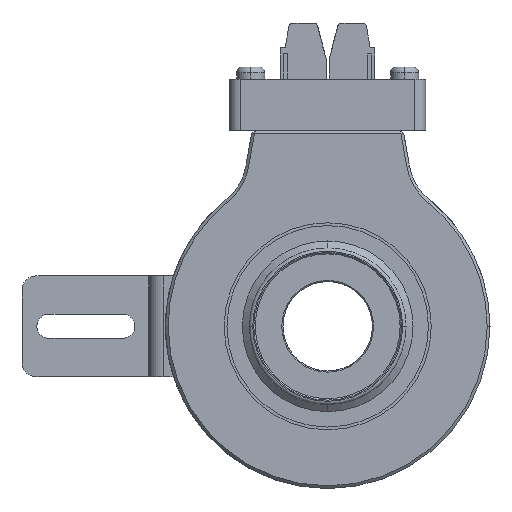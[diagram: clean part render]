
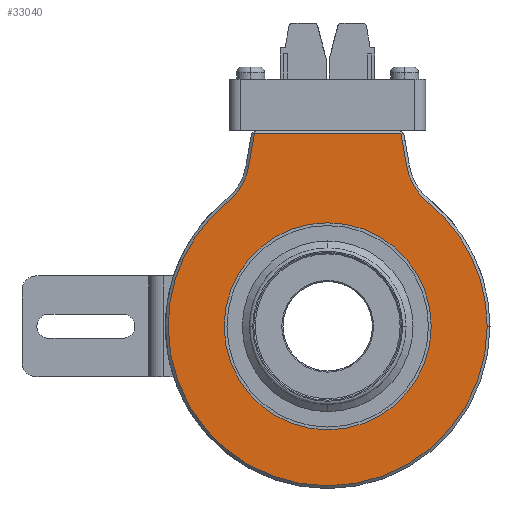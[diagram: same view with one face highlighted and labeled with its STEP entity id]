
A CAD part, left-side view. The second image highlights one B-rep face of the part: STEP entity #33040.
In plain terms, the highlighted planar face has unit normal (-1, 0, 0).
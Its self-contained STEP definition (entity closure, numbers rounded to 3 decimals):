
#963 = ORIENTED_EDGE ( 'NONE', *, *, #101474, .T. ) ;
#2913 = DIRECTION ( 'NONE',  ( 1., 0., 0. ) ) ;
#3693 = CARTESIAN_POINT ( 'NONE',  ( -27., 17.883, 22.191 ) ) ;
#4895 = DIRECTION ( 'NONE',  ( 1., 0., 0. ) ) ;
#5388 = VERTEX_POINT ( 'NONE', #10444 ) ;
#5405 = EDGE_CURVE ( 'NONE', #5388, #38282, #83520, .T. ) ;
#5670 = DIRECTION ( 'NONE',  ( 0., -1., 0. ) ) ;
#6127 = VERTEX_POINT ( 'NONE', #83671 ) ;
#7540 = EDGE_CURVE ( 'NONE', #13127, #28374, #52136, .T. ) ;
#7824 = DIRECTION ( 'NONE',  ( -1., 0., 0. ) ) ;
#10444 = CARTESIAN_POINT ( 'NONE',  ( -27., 13.08, 34.5 ) ) ;
#10959 = PLANE ( 'NONE',  #46688 ) ;
#11042 = VECTOR ( 'NONE', #99295, 1000. ) ;
#12610 = CARTESIAN_POINT ( 'NONE',  ( -27., -13.08, 34.5 ) ) ;
#13127 = VERTEX_POINT ( 'NONE', #43358 ) ;
#13534 = ORIENTED_EDGE ( 'NONE', *, *, #7540, .T. ) ;
#13763 = DIRECTION ( 'NONE',  ( 0., -1., 0. ) ) ;
#18870 = ORIENTED_EDGE ( 'NONE', *, *, #5405, .T. ) ;
#21832 = VECTOR ( 'NONE', #45349, 1000. ) ;
#23403 = CARTESIAN_POINT ( 'NONE',  ( -27., 0., 0. ) ) ;
#24986 = ORIENTED_EDGE ( 'NONE', *, *, #67703, .T. ) ;
#25370 = DIRECTION ( 'NONE',  ( 0., -1., 0. ) ) ;
#26589 = DIRECTION ( 'NONE',  ( 0., -1., 0. ) ) ;
#28374 = VERTEX_POINT ( 'NONE', #75214 ) ;
#31207 = EDGE_LOOP ( 'NONE', ( #53195, #100364 ) ) ;
#32189 = VECTOR ( 'NONE', #100170, 1000. ) ;
#32933 = CIRCLE ( 'NONE', #72398, 18.5 ) ;
#33040 = ADVANCED_FACE ( 'NONE', ( #44825, #77024 ), #10959, .T. ) ;
#34297 = AXIS2_PLACEMENT_3D ( 'NONE', #77557, #2913, #26589 ) ;
#34659 = CARTESIAN_POINT ( 'NONE',  ( -27., 19.46, -1.682 ) ) ;
#34988 = VERTEX_POINT ( 'NONE', #90794 ) ;
#35774 = DIRECTION ( 'NONE',  ( 0., 1., 0. ) ) ;
#37423 = EDGE_CURVE ( 'NONE', #6127, #89048, #69381, .T. ) ;
#38282 = VERTEX_POINT ( 'NONE', #75866 ) ;
#38672 = DIRECTION ( 'NONE',  ( -1., 0., 0. ) ) ;
#43358 = CARTESIAN_POINT ( 'NONE',  ( -27., 28.5, 0. ) ) ;
#44110 = ORIENTED_EDGE ( 'NONE', *, *, #97656, .T. ) ;
#44825 = FACE_OUTER_BOUND ( 'NONE', #51692, .T. ) ;
#45349 = DIRECTION ( 'NONE',  ( 0., 1., 0. ) ) ;
#46254 = CIRCLE ( 'NONE', #34297, 10.5 ) ;
#46688 = AXIS2_PLACEMENT_3D ( 'NONE', #67934, #61457, #59887 ) ;
#47865 = DIRECTION ( 'NONE',  ( 0., 1., 0. ) ) ;
#48942 = CARTESIAN_POINT ( 'NONE',  ( -27., -18.5, 0. ) ) ;
#49308 = AXIS2_PLACEMENT_3D ( 'NONE', #23403, #89463, #5670 ) ;
#50093 = DIRECTION ( 'NONE',  ( 1., 0., 0. ) ) ;
#51692 = EDGE_LOOP ( 'NONE', ( #79604, #44110, #18870, #69479, #24986, #13534, #62146, #963 ) ) ;
#52136 = CIRCLE ( 'NONE', #91551, 28.5 ) ;
#52945 = CARTESIAN_POINT ( 'NONE',  ( -27., 0., 0. ) ) ;
#53195 = ORIENTED_EDGE ( 'NONE', *, *, #37423, .T. ) ;
#53396 = LINE ( 'NONE', #86130, #21832 ) ;
#55850 = DIRECTION ( 'NONE',  ( 0., -1., 0. ) ) ;
#55933 = CARTESIAN_POINT ( 'NONE',  ( -27., 0., 0. ) ) ;
#59197 = AXIS2_PLACEMENT_3D ( 'NONE', #63732, #7824, #13763 ) ;
#59570 = CARTESIAN_POINT ( 'NONE',  ( -27., -17.711, 8.236 ) ) ;
#59618 = CIRCLE ( 'NONE', #49308, 28.5 ) ;
#59887 = DIRECTION ( 'NONE',  ( 0., -1., 0. ) ) ;
#61457 = DIRECTION ( 'NONE',  ( -1., 0., 0. ) ) ;
#62146 = ORIENTED_EDGE ( 'NONE', *, *, #98969, .T. ) ;
#62303 = CARTESIAN_POINT ( 'NONE',  ( -27., 0., 0. ) ) ;
#63732 = CARTESIAN_POINT ( 'NONE',  ( -27., 0., 0. ) ) ;
#67703 = EDGE_CURVE ( 'NONE', #97349, #13127, #103767, .T. ) ;
#67934 = CARTESIAN_POINT ( 'NONE',  ( -27., 29., 0. ) ) ;
#68526 = DIRECTION ( 'NONE',  ( 1., 0., 0. ) ) ;
#69381 = CIRCLE ( 'NONE', #88226, 18.5 ) ;
#69479 = ORIENTED_EDGE ( 'NONE', *, *, #104468, .T. ) ;
#72398 = AXIS2_PLACEMENT_3D ( 'NONE', #52945, #68526, #35774 ) ;
#75214 = CARTESIAN_POINT ( 'NONE',  ( -27., -28.5, 0. ) ) ;
#75866 = CARTESIAN_POINT ( 'NONE',  ( -27., 14.131, 28.544 ) ) ;
#77024 = FACE_BOUND ( 'NONE', #31207, .T. ) ;
#77557 = CARTESIAN_POINT ( 'NONE',  ( -27., -24.471, 30.367 ) ) ;
#78041 = VERTEX_POINT ( 'NONE', #83372 ) ;
#79604 = ORIENTED_EDGE ( 'NONE', *, *, #91532, .T. ) ;
#82647 = LINE ( 'NONE', #59570, #11042 ) ;
#82838 = VERTEX_POINT ( 'NONE', #12610 ) ;
#83372 = CARTESIAN_POINT ( 'NONE',  ( -27., -14.131, 28.544 ) ) ;
#83520 = LINE ( 'NONE', #34659, #32189 ) ;
#83671 = CARTESIAN_POINT ( 'NONE',  ( -27., 18.5, 0. ) ) ;
#86130 = CARTESIAN_POINT ( 'NONE',  ( -27., 29., 34.5 ) ) ;
#87364 = EDGE_CURVE ( 'NONE', #89048, #6127, #32933, .T. ) ;
#88226 = AXIS2_PLACEMENT_3D ( 'NONE', #55933, #4895, #47865 ) ;
#89048 = VERTEX_POINT ( 'NONE', #48942 ) ;
#89463 = DIRECTION ( 'NONE',  ( -1., 0., 0. ) ) ;
#90794 = CARTESIAN_POINT ( 'NONE',  ( -27., -17.883, 22.191 ) ) ;
#91351 = AXIS2_PLACEMENT_3D ( 'NONE', #91978, #50093, #25370 ) ;
#91532 = EDGE_CURVE ( 'NONE', #78041, #82838, #82647, .T. ) ;
#91551 = AXIS2_PLACEMENT_3D ( 'NONE', #62303, #38672, #55850 ) ;
#91978 = CARTESIAN_POINT ( 'NONE',  ( -27., 24.471, 30.367 ) ) ;
#96642 = CIRCLE ( 'NONE', #91351, 10.5 ) ;
#97349 = VERTEX_POINT ( 'NONE', #3693 ) ;
#97656 = EDGE_CURVE ( 'NONE', #82838, #5388, #53396, .T. ) ;
#98969 = EDGE_CURVE ( 'NONE', #28374, #34988, #59618, .T. ) ;
#99295 = DIRECTION ( 'NONE',  ( 0., 0.174, 0.985 ) ) ;
#100170 = DIRECTION ( 'NONE',  ( 0., 0.174, -0.985 ) ) ;
#100364 = ORIENTED_EDGE ( 'NONE', *, *, #87364, .T. ) ;
#101474 = EDGE_CURVE ( 'NONE', #34988, #78041, #46254, .T. ) ;
#103767 = CIRCLE ( 'NONE', #59197, 28.5 ) ;
#104468 = EDGE_CURVE ( 'NONE', #38282, #97349, #96642, .T. ) ;
